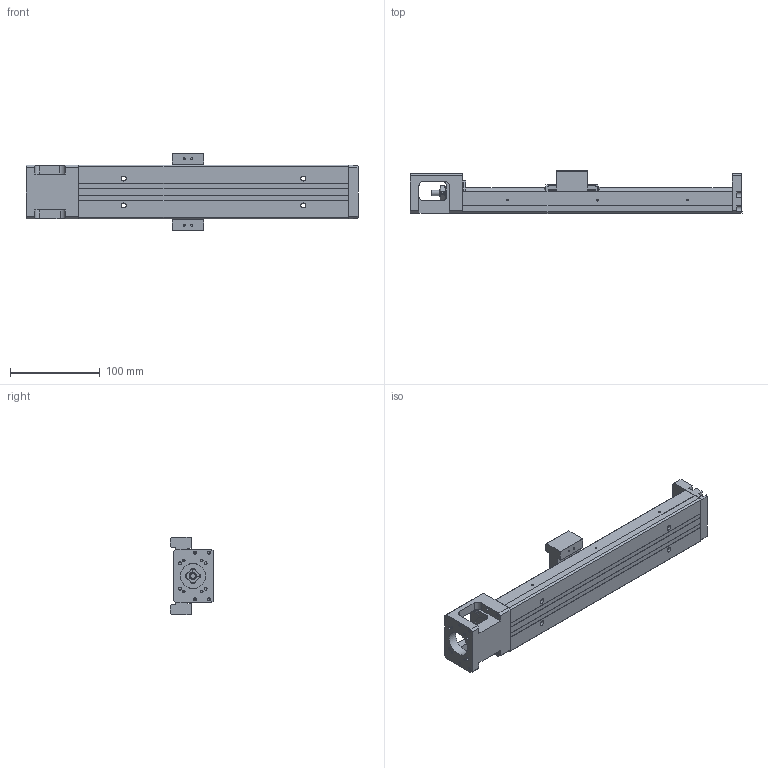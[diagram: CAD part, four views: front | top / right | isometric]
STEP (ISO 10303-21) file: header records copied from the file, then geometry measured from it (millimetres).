
FILE_DESCRIPTION(/* description */ (''),/* implementation_level */ '2;1');
FILE_NAME(/* name */ '33S-300.stp',/* time_stamp */ '2016-12-20T13:36:12+08:00',/* author */ (''),/* organization */ (''),/* preprocessor_version */ 'ST-DEVELOPER v11',/* originating_system */ 'SIEMENS UGS NX 6.0',/* authorisation */ '');
FILE_SCHEMA (('AUTOMOTIVE_DESIGN { 1 0 10303 214 1 1 1 1 }'));
Length unit declared in the file: millimetre
Products named in the file (1): model4
Bounding box: 370 x 47.95 x 86 mm (x, y, z)
Volume: 466693.6 mm3; surface area: 132307.8 mm2
Topology: 6 solids, 11 shells, 654 faces, 1656 edges, 1091 vertices
Faces by surface type: plane 391, cylinder 178, bspline 31, cone 22, extrusion 21, torus 9, revolution 2
Full cylindrical faces by diameter (mm): 1.6 x2, 1.65 x4, 2.15 x7, 2.42 x4, 2.45 x4, 2.5 x16, 3.2 x4, 3.3 x4, 3.4 x4, 3.5 x10, 3.969 x1, 4 x4, 4.001 x1, 4.135 x2, 4.2 x2, 5.5 x4, 6 x5, 7.6 x1, 8 x5, 9.5 x4, 10.72 x3, 11.8 x2, 12 x6, 12.8 x1, 13 x2, 14 x1, 17.38 x3, 21.5 x1, 22 x2, 28 x1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
Entity records: 34645 total; most frequent: CARTESIAN_POINT 16188, DIRECTION 2958, ORIENTED_EDGE 2886, EDGE_CURVE 1443, AXIS2_PLACEMENT_3D 1029, VERTEX_POINT 1021, EDGE_LOOP 918, VECTOR 898
